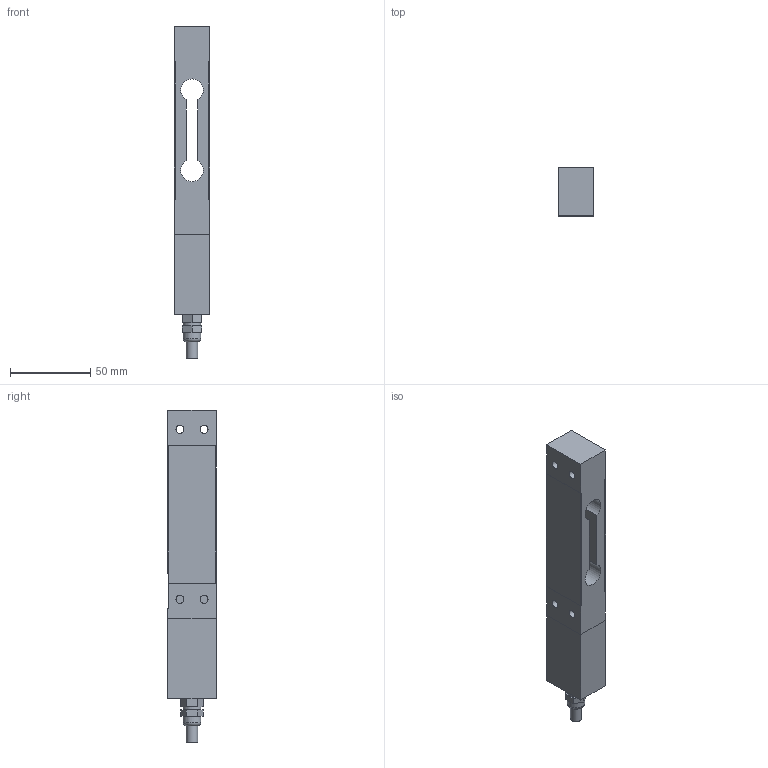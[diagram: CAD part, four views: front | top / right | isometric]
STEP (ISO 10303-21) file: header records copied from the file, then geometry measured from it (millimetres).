
FILE_DESCRIPTION (( 'STEP AP214' ), '1' );
FILE_NAME ('3D_KT302_30N-500N_komp.STEP', '2012-12-11T13:41:25', ( 'mega' ), ( 'mega' ), 'SwSTEP 2.0', 'SolidWorks 2012', '' );
FILE_SCHEMA (( 'AUTOMOTIVE_DESIGN' ));
Length unit declared in the file: millimetre
Products named in the file (1): 3D_KT302_30N-500N_komp
Bounding box: 22.2 x 30 x 207 mm (x, y, z)
Volume: 101890.1 mm3; surface area: 26735.1 mm2
Topology: 1 solids, 1 shells, 75 faces, 181 edges, 116 vertices
Faces by surface type: plane 50, cylinder 18, cone 6, torus 1
Full cylindrical faces by diameter (mm): 2.4 x1, 3.4 x2, 5 x4, 7 x1, 11 x2
Entity records: 2542 total; most frequent: DIRECTION 352, CARTESIAN_POINT 346, ORIENTED_EDGE 318, EDGE_CURVE 159, VECTOR 118, LINE 118, AXIS2_PLACEMENT_3D 117, VERTEX_POINT 111
